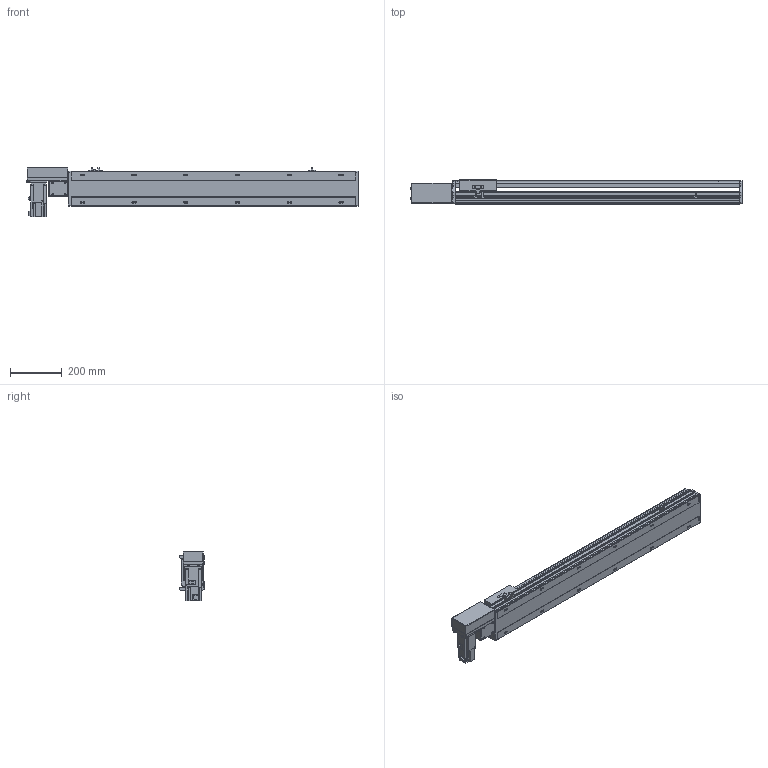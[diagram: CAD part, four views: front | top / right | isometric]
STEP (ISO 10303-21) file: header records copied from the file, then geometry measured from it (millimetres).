
FILE_DESCRIPTION( ( 'STEP AP214' ), '1' );
FILE_NAME( 'x:/temp/worker_6/temp/exporttempdir_5396_57_JbWYT/format_0/PBS140S-P40-S850-R-T40-C1-N(0).stp', '2022-06-09T00:14:28', ( 'License CC BY-ND 4.0' ), ( 'CADENAS' ), ' ', 'PARTsolutions', ' ' );
FILE_SCHEMA( ( 'AUTOMOTIVE_DESIGN { 1 0 10303 214 1 1 1 1 }' ) );
Length unit declared in the file: millimetre
Products named in the file (7): PBS140S-P40-S850-R-T40-C1-N(0); _PBS140S-S850()_body; _PBS140ST-R_motors; _T40-p1; _PBS140S_sliser; _PBS140S_plant; _PBS140S_sensor
Assembly tree (8 placements, depth 2):
  PBS140S-P40-S850-R-T40-C1-N(0)
    _PBS140S-S850()_body
    _PBS140ST-R_motors
    _T40-p1
    _PBS140S_sliser
    _PBS140S_plant
    _PBS140S_sensor  x3
Bounding box: 1283 x 93 x 189.7 mm (x, y, z)
Volume: 6357883.3 mm3; surface area: 1106716.8 mm2
Topology: 8 solids, 8 shells, 1067 faces, 2831 edges, 1853 vertices
Faces by surface type: plane 690, cylinder 329, cone 38, sphere 8, torus 2
Full cylindrical faces by diameter (mm): 3.242 x4, 4 x2, 4.134 x4, 4.4 x8, 4.5 x2, 4.8 x4, 4.917 x20, 5.5 x7, 6 x2, 7 x14, 7.5 x8, 8 x12, 8.5 x4, 10.5 x12, 14 x1, 30 x2, 50 x2
Entity records: 39052 total; most frequent: CARTESIAN_POINT 6070, DIRECTION 5208, ORIENTED_EDGE 4942, EDGE_CURVE 2471, AXIS2_PLACEMENT_3D 1799, VERTEX_POINT 1705, LINE 1610, VECTOR 1610
